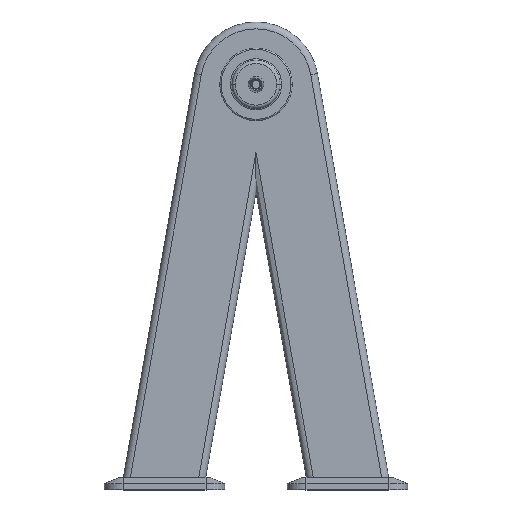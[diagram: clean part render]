
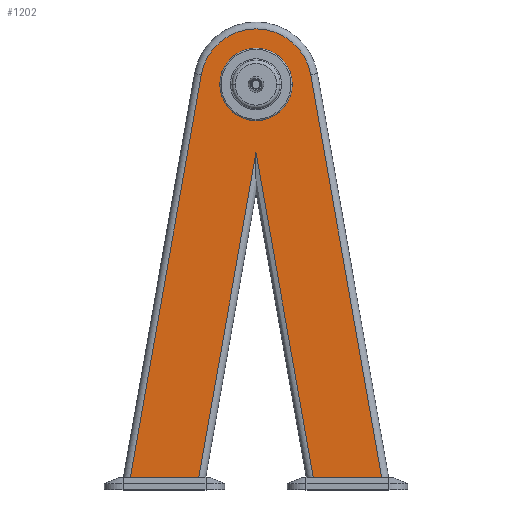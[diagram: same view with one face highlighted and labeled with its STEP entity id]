
A CAD part, top view. The second image highlights one B-rep face of the part: STEP entity #1202.
In plain terms, the highlighted planar face has unit normal (0, 0, 1).
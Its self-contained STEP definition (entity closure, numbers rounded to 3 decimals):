
#5 = LINE ( 'NONE', #236, #570 ) ;
#18 = VERTEX_POINT ( 'NONE', #1599 ) ;
#42 = EDGE_CURVE ( 'NONE', #2810, #985, #322, .T. ) ;
#45 = VECTOR ( 'NONE', #612, 1000. ) ;
#198 = DIRECTION ( 'NONE',  ( 0.174, -0.985, 0. ) ) ;
#223 = EDGE_CURVE ( 'NONE', #1622, #2810, #1120, .T. ) ;
#236 = CARTESIAN_POINT ( 'NONE',  ( 97.905, -14.664, 63. ) ) ;
#265 = CARTESIAN_POINT ( 'NONE',  ( 0., 20., 63. ) ) ;
#278 = CIRCLE ( 'NONE', #2446, 58. ) ;
#322 = LINE ( 'NONE', #1856, #941 ) ;
#370 = CARTESIAN_POINT ( 'NONE',  ( -58., 650., 63. ) ) ;
#379 = EDGE_CURVE ( 'NONE', #1244, #1622, #825, .T. ) ;
#391 = CIRCLE ( 'NONE', #1560, 58. ) ;
#395 = CARTESIAN_POINT ( 'NONE',  ( 0., 650., 63. ) ) ;
#448 = DIRECTION ( 'NONE',  ( 0.174, 0.985, 0. ) ) ;
#465 = DIRECTION ( 'NONE',  ( 0., 0., 1. ) ) ;
#493 = AXIS2_PLACEMENT_3D ( 'NONE', #1237, #1230, #1000 ) ;
#527 = EDGE_CURVE ( 'NONE', #1244, #1832, #1003, .T. ) ;
#534 = VECTOR ( 'NONE', #984, 1000. ) ;
#562 = PLANE ( 'NONE',  #728 ) ;
#570 = VECTOR ( 'NONE', #198, 1000. ) ;
#589 = CARTESIAN_POINT ( 'NONE',  ( 87.648, 665.455, 63. ) ) ;
#612 = DIRECTION ( 'NONE',  ( -0.174, 0.985, 0. ) ) ;
#632 = DIRECTION ( 'NONE',  ( 1., 0., 0. ) ) ;
#645 = FACE_BOUND ( 'NONE', #1281, .T. ) ;
#683 = EDGE_CURVE ( 'NONE', #1262, #1832, #5, .T. ) ;
#728 = AXIS2_PLACEMENT_3D ( 'NONE', #1025, #2502, #1261 ) ;
#747 = LINE ( 'NONE', #1994, #1348 ) ;
#825 = LINE ( 'NONE', #589, #45 ) ;
#846 = EDGE_CURVE ( 'NONE', #1979, #1262, #747, .T. ) ;
#853 = CARTESIAN_POINT ( 'NONE',  ( -87.648, 665.455, 63. ) ) ;
#941 = VECTOR ( 'NONE', #1878, 1000. ) ;
#943 = ORIENTED_EDGE ( 'NONE', *, *, #995, .F. ) ;
#951 = ORIENTED_EDGE ( 'NONE', *, *, #379, .T. ) ;
#984 = DIRECTION ( 'NONE',  ( -1., 0., 0. ) ) ;
#985 = VERTEX_POINT ( 'NONE', #2428 ) ;
#994 = CARTESIAN_POINT ( 'NONE',  ( 0., 20., 63. ) ) ;
#995 = EDGE_CURVE ( 'NONE', #1979, #985, #2211, .T. ) ;
#1000 = DIRECTION ( 'NONE',  ( 1., 0., 0. ) ) ;
#1003 = LINE ( 'NONE', #994, #534 ) ;
#1025 = CARTESIAN_POINT ( 'NONE',  ( 0., 650., 63. ) ) ;
#1047 = CARTESIAN_POINT ( 'NONE',  ( 201.459, 20., 63. ) ) ;
#1060 = CARTESIAN_POINT ( 'NONE',  ( 0., 540.583, 63. ) ) ;
#1081 = VECTOR ( 'NONE', #1601, 1000. ) ;
#1099 = ORIENTED_EDGE ( 'NONE', *, *, #683, .T. ) ;
#1120 = CIRCLE ( 'NONE', #493, 89. ) ;
#1202 = ADVANCED_FACE ( 'NONE', ( #645, #2301 ), #562, .T. ) ;
#1230 = DIRECTION ( 'NONE',  ( 0., 0., 1. ) ) ;
#1231 = ORIENTED_EDGE ( 'NONE', *, *, #42, .T. ) ;
#1237 = CARTESIAN_POINT ( 'NONE',  ( 0., 650., 63. ) ) ;
#1244 = VERTEX_POINT ( 'NONE', #1047 ) ;
#1261 = DIRECTION ( 'NONE',  ( 1., 0., 0. ) ) ;
#1262 = VERTEX_POINT ( 'NONE', #1060 ) ;
#1281 = EDGE_LOOP ( 'NONE', ( #2781, #2099 ) ) ;
#1300 = EDGE_CURVE ( 'NONE', #2275, #18, #278, .T. ) ;
#1348 = VECTOR ( 'NONE', #448, 1000. ) ;
#1476 = EDGE_CURVE ( 'NONE', #18, #2275, #391, .T. ) ;
#1560 = AXIS2_PLACEMENT_3D ( 'NONE', #1787, #465, #2008 ) ;
#1599 = CARTESIAN_POINT ( 'NONE',  ( 58., 650., 63. ) ) ;
#1601 = DIRECTION ( 'NONE',  ( -1., 0., 0. ) ) ;
#1616 = ORIENTED_EDGE ( 'NONE', *, *, #527, .F. ) ;
#1622 = VERTEX_POINT ( 'NONE', #2047 ) ;
#1755 = CARTESIAN_POINT ( 'NONE',  ( -91.793, 20., 63. ) ) ;
#1787 = CARTESIAN_POINT ( 'NONE',  ( 0., 650., 63. ) ) ;
#1832 = VERTEX_POINT ( 'NONE', #2125 ) ;
#1856 = CARTESIAN_POINT ( 'NONE',  ( -206.38, -7.91, 63. ) ) ;
#1878 = DIRECTION ( 'NONE',  ( -0.174, -0.985, 0. ) ) ;
#1948 = ORIENTED_EDGE ( 'NONE', *, *, #846, .T. ) ;
#1950 = DIRECTION ( 'NONE',  ( 0., 0., 1. ) ) ;
#1963 = EDGE_LOOP ( 'NONE', ( #943, #1948, #1099, #1616, #951, #2194, #1231 ) ) ;
#1979 = VERTEX_POINT ( 'NONE', #1755 ) ;
#1994 = CARTESIAN_POINT ( 'NONE',  ( -10.833, 479.147, 63. ) ) ;
#2008 = DIRECTION ( 'NONE',  ( 1., 0., 0. ) ) ;
#2047 = CARTESIAN_POINT ( 'NONE',  ( 87.648, 665.455, 63. ) ) ;
#2099 = ORIENTED_EDGE ( 'NONE', *, *, #1476, .F. ) ;
#2125 = CARTESIAN_POINT ( 'NONE',  ( 91.793, 20., 63. ) ) ;
#2194 = ORIENTED_EDGE ( 'NONE', *, *, #223, .T. ) ;
#2211 = LINE ( 'NONE', #265, #1081 ) ;
#2275 = VERTEX_POINT ( 'NONE', #370 ) ;
#2301 = FACE_OUTER_BOUND ( 'NONE', #1963, .T. ) ;
#2428 = CARTESIAN_POINT ( 'NONE',  ( -201.459, 20., 63. ) ) ;
#2446 = AXIS2_PLACEMENT_3D ( 'NONE', #395, #1950, #632 ) ;
#2502 = DIRECTION ( 'NONE',  ( 0., 0., 1. ) ) ;
#2781 = ORIENTED_EDGE ( 'NONE', *, *, #1300, .F. ) ;
#2810 = VERTEX_POINT ( 'NONE', #853 ) ;
